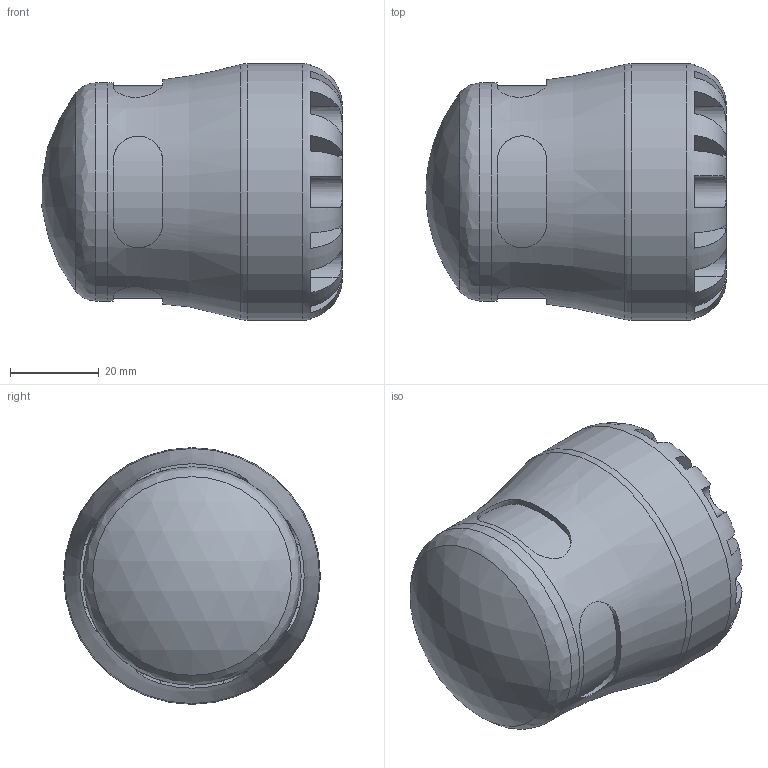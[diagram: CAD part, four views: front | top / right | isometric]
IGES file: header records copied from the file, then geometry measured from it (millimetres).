
Global section: file name: 101200032_191200032.ipt; native system: Autodesk Inventor 2015; preprocessor: unknown; author: KIM; date: 20170117.125121; units: millimetre
Bounding box: 67.83 x 58 x 58 mm (x, y, z)
Volume: 92382.1 mm3; surface area: 21185.8 mm2
Topology: 1 solids, 1 shells, 95 faces, 245 edges, 156 vertices
Faces by surface type: plane 57, revolution 23, cylinder 14, sphere 1
Full cylindrical faces by diameter (mm): 49.3 x1, 58 x1
